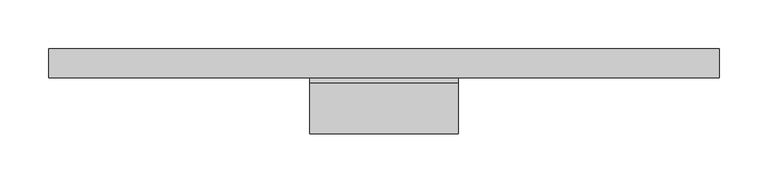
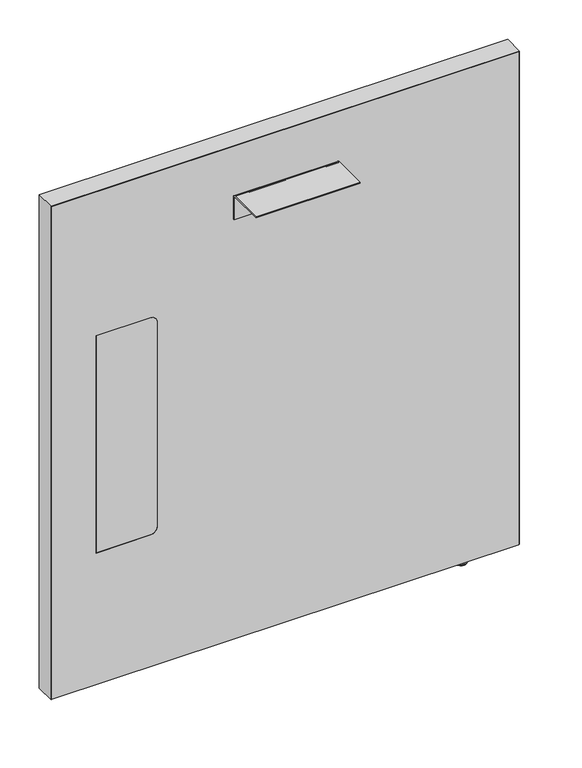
"""IFC4 building model written with IfcOpenShell, lengths in millimetres: furniture geometry, Steelcase - Answer Solution - Boundary Screen - Straight - Single Sided : 30H x 27W."""

from ifc_helpers import new_model, si_unit, point, frame, frame_2d, origin, place, context, project, spatial, polyline, circle_curve, ellipse_curve, trimmed, segment, composite_curve, outline, extrude, source, transform, mapped, element, save
from ifc_brep_helpers import plane_surface, cylinder_surface, revolved_surface, advanced_brep


def furniture_57e16f7c(model_context):
    return source(origin(), model_context, "Body", "SolidModel", [
        extrude(outline(composite_curve([segment(polyline([(-86.8398151, 696.4680019), (-86.8398151, 698.5), (-34.9450855, 698.5)]), True, "CONTINUOUS"), segment(trimmed(circle_curve(frame_2d((-34.9450855, 693.2447477)), 5.2552523), [point((-34.9450855, 698.5))], [point((-29.6898332, 693.2447477))], False, "CARTESIAN"), True, "CONTINUOUS"), segment(polyline([(-29.6898332, 693.2447477), (-29.6898332, 660.4), (-31.7218162, 660.4), (-31.7218162, 693.0058743)]), True, "CONTINUOUS"), segment(trimmed(circle_curve(frame_2d((-35.1839438, 693.0058743)), 3.4621276), [point((-31.7218162, 693.0058743))], [point((-35.1839438, 696.4680019))], True, "CARTESIAN"), True, "CONTINUOUS"), segment(polyline([(-35.1839438, 696.4680019), (-86.8398151, 696.4680019)]), True, "CONTINUOUS")], self_intersect=False)), frame((-379.7808593, 0.0, 0.0), z_axis=(1.0, 0.0, 0.0), x_axis=(0.0, 1.0, 0.0)), (0.0, 0.0, 1.0), 152.4000969),
        advanced_brep(
        [(-37.8713512, -23.7588726, 9.9059849), (-37.8713512, -5.9309607, 9.9059849), (-37.8713512, -14.8449166, 9.9059849), (-37.8713512, -23.7588726, 2.9673238), (-37.8713512, -5.9309607, 2.9673238), (-37.8713512, -22.7915354, 2.9673238), (-37.8713512, -6.8982978, 2.9673238), (-37.8713512, -22.7915354, 1.6569081), (-37.8713512, -6.8982978, 1.6569081), (-37.8713512, -21.1346274, 0.0), (-37.8713512, -8.5552059, 0.0), (-37.8713512, -14.8449166, 0.0)],
        [
            (0, 1, circle_curve(frame((-37.8713512, -14.8449166, 9.9059849), z_axis=(0.0, 0.0, 1.0), x_axis=(0.0, 1.0, 0.0)), 8.913956)),
            (1, 2),
            (2, 0),
            (1, 0, circle_curve(frame((-37.8713512, -14.8449166, 9.9059849), z_axis=(0.0, 0.0, 1.0), x_axis=(0.0, 1.0, 0.0)), 8.913956)),
            (3, 4, circle_curve(frame((-37.8713512, -14.8449166, 2.9673238), z_axis=(0.0, 0.0, 1.0), x_axis=(0.0, 1.0, 0.0)), 8.913956)),
            (4, 1),
            (0, 3),
            (4, 3, circle_curve(frame((-37.8713512, -14.8449166, 2.9673238), z_axis=(0.0, 0.0, 1.0), x_axis=(0.0, 1.0, 0.0)), 8.913956)),
            (5, 6, circle_curve(frame((-37.8713512, -14.8449166, 2.9673238), z_axis=(0.0, 0.0, 1.0), x_axis=(0.0, 1.0, 0.0)), 7.9466188)),
            (6, 4),
            (3, 5),
            (6, 5, circle_curve(frame((-37.8713512, -14.8449166, 2.9673238), z_axis=(0.0, 0.0, 1.0), x_axis=(0.0, 1.0, 0.0)), 7.9466188)),
            (7, 8, circle_curve(frame((-37.8713512, -14.8449166, 1.6569081), z_axis=(0.0, 0.0, 1.0), x_axis=(0.0, 1.0, 0.0)), 7.9466188)),
            (8, 6),
            (5, 7),
            (8, 7, circle_curve(frame((-37.8713512, -14.8449166, 1.6569081), z_axis=(0.0, 0.0, 1.0), x_axis=(0.0, 1.0, 0.0)), 7.9466188)),
            (9, 10, circle_curve(frame((-37.8713512, -14.8449166, 0.0), z_axis=(0.0, 0.0, 1.0), x_axis=(0.0, 1.0, 0.0)), 6.2897107)),
            (10, 8, circle_curve(frame((-37.8713512, -8.5552059, 1.6569081), z_axis=(1.0, 0.0, 0.0), x_axis=(0.0, 1.0, 0.0)), 1.6569081)),
            (7, 9, circle_curve(frame((-37.8713512, -21.1346274, 1.6569081), z_axis=(1.0, 0.0, 0.0), x_axis=(0.0, -1.0, 0.0)), 1.6569081)),
            (10, 9, circle_curve(frame((-37.8713512, -14.8449166, 0.0), z_axis=(0.0, 0.0, 1.0), x_axis=(0.0, 1.0, 0.0)), 6.2897107)),
            (11, 10),
            (9, 11),
        ],
        [
            plane_surface(frame((-37.8713512, -14.8449166, 9.9059849), z_axis=(0.0, 0.0, 1.0), x_axis=(0.0, 1.0, 0.0))),
            cylinder_surface(frame((-37.8713512, -14.8449166, 9.9059849), z_axis=(0.0, 0.0, -1.0), x_axis=(0.0, 1.0, 0.0)), 8.913956),
            plane_surface(frame((-37.8713512, -14.8449166, 2.9673238), z_axis=(0.0, 0.0, -1.0), x_axis=(0.0, 1.0, 0.0))),
            cylinder_surface(frame((-37.8713512, -14.8449166, 9.9059849), z_axis=(0.0, 0.0, -1.0), x_axis=(0.0, 1.0, 0.0)), 7.9466188),
            revolved_surface(trimmed(ellipse_curve(frame((-37.8713512, -8.5552059, 1.6569081), z_axis=(-1.0, 0.0, 0.0), x_axis=(0.0, 1.0, 0.0)), 1.6569081, 1.6569081), [point((-37.8713512, -6.8982978, 1.6569081))], [point((-37.8713512, -8.5552059, 0.0))], True, "CARTESIAN"), (-37.8713512, -14.8449166, 9.9059849), (0.0, 0.0, -1.0)),
            plane_surface(frame((-37.8713512, -14.8449166, 0.0), z_axis=(0.0, 0.0, -1.0), x_axis=(0.0, 1.0, 0.0))),
        ],
        [
            (0, [[1, 2, 3]]),
            (0, [[4, -3, -2]]),
            (1, [[5, 6, -1, 7]]),
            (1, [[8, -7, -4, -6]]),
            (2, [[9, 10, -5, 11]]),
            (2, [[12, -11, -8, -10]]),
            (3, [[13, 14, -9, 15]]),
            (3, [[16, -15, -12, -14]]),
            (4, [[17, 18, -13, 19]]),
            (4, [[20, -19, -16, -18]]),
            (5, [[21, -17, 22]]),
            (5, [[-22, -20, -21]]),
        ],
    ),
        advanced_brep(
        [(38.2780168, 0.0, 771.942118), (38.2780168, 0.0, 9.9059849), (-645.4902221, 0.0, 9.9059849), (-645.4902221, 0.0, 771.942118), (38.2780168, -29.6898332, 771.942118), (-645.4902221, -29.6898332, 771.942118), (-645.4902221, -29.6898332, 9.9059849), (38.2780168, -29.6898332, 9.9059849), (-501.1463873, -29.6898332, 549.6162029), (-490.9863873, -29.6898332, 539.4562029), (-490.9863873, -29.6898332, 223.9362137), (-501.1463873, -29.6898332, 213.7762137), (-580.800285, -29.6898332, 213.7762137), (-580.800285, -29.6898332, 549.6162029), (-580.800285, -29.0550397, 549.6162029), (-501.1463873, -29.0550397, 549.6162029), (-580.800285, -29.0550397, 213.7762137), (-501.1463873, -29.0550397, 213.7762137), (-490.9863873, -29.0550397, 223.9362137), (-490.9863873, -29.0550397, 539.4562029)],
        [
            (0, 1),
            (1, 2),
            (2, 3),
            (3, 0),
            (4, 5),
            (5, 6),
            (6, 7),
            (7, 4),
            (8, 9, circle_curve(frame((-501.1463873, -29.6898332, 539.4562029), z_axis=(0.0, 1.0, 0.0), x_axis=(0.0, 0.0, 1.0)), 10.16)),
            (9, 10),
            (10, 11, circle_curve(frame((-501.1463873, -29.6898332, 223.9362137), z_axis=(0.0, 1.0, 0.0), x_axis=(0.0, 0.0, 1.0)), 10.16)),
            (11, 12),
            (12, 13),
            (13, 8),
            (0, 4),
            (7, 1),
            (6, 2),
            (5, 3),
            (13, 14),
            (14, 15),
            (15, 8),
            (12, 16),
            (16, 14),
            (11, 17),
            (17, 16),
            (10, 18),
            (18, 17, circle_curve(frame((-501.1463873, -29.0550397, 223.9362137), z_axis=(0.0, 1.0, 0.0), x_axis=(0.0, 0.0, 1.0)), 10.16)),
            (9, 19),
            (19, 18),
            (15, 19, circle_curve(frame((-501.1463873, -29.0550397, 539.4562029), z_axis=(0.0, 1.0, 0.0), x_axis=(0.0, 0.0, 1.0)), 10.16)),
        ],
        [
            plane_surface(frame((38.2780168, 0.0, 771.942118), z_axis=(0.0, 1.0, 0.0), x_axis=(0.0, 0.0, -1.0))),
            plane_surface(frame((38.2780168, -29.6898332, 771.942118), z_axis=(0.0, -1.0, 0.0), x_axis=(0.0, 0.0, 1.0))),
            plane_surface(frame((38.2780168, 0.0, 771.942118), z_axis=(1.0, 0.0, 0.0), x_axis=(0.0, -1.0, 0.0))),
            plane_surface(frame((38.2780168, 0.0, 9.9059849), z_axis=(0.0, 0.0, -1.0), x_axis=(0.0, -1.0, 0.0))),
            plane_surface(frame((-645.4902221, 0.0, 9.9059849), z_axis=(-1.0, 0.0, 0.0), x_axis=(0.0, -1.0, 0.0))),
            plane_surface(frame((-645.4902221, 0.0, 771.942118), z_axis=(0.0, 0.0, 1.0), x_axis=(0.0, -1.0, 0.0))),
            plane_surface(frame((-501.1463873, 0.0, 549.6162029), z_axis=(0.0, 0.0, -1.0), x_axis=(0.0, -1.0, 0.0))),
            plane_surface(frame((-580.800285, 0.0, 549.6162029), z_axis=(1.0, 0.0, 0.0), x_axis=(0.0, -1.0, 0.0))),
            plane_surface(frame((-580.800285, 0.0, 213.7762137), z_axis=(0.0, 0.0, 1.0), x_axis=(0.0, -1.0, 0.0))),
            revolved_surface(polyline([(-501.1463873, -29.6898332, 234.0962137), (-501.1463873, -29.0550397, 234.0962137)]), (-501.1463873, -29.6898332, 223.9362137), (0.0, -1.0, 0.0)),
            plane_surface(frame((-490.9863873, 0.0, 223.9362137), z_axis=(-1.0, 0.0, 0.0), x_axis=(0.0, -1.0, 0.0))),
            revolved_surface(polyline([(-501.1463873, -29.6898332, 549.6162029), (-501.1463873, -29.0550397, 549.6162029)]), (-501.1463873, -29.6898332, 539.4562029), (0.0, -1.0, 0.0)),
            plane_surface(frame((-490.9863873, -29.0550397, 629.172953), z_axis=(0.0, -1.0, 0.0), x_axis=(0.0, 0.0, 1.0))),
        ],
        [
            (0, [[1, 2, 3, 4]]),
            (1, [[5, 6, 7, 8], [9, 10, 11, 12, 13, 14]]),
            (2, [[-1, 15, -8, 16]]),
            (3, [[-2, -16, -7, 17]]),
            (4, [[-3, -17, -6, 18]]),
            (5, [[-4, -18, -5, -15]]),
            (6, [[-14, 19, 20, 21]]),
            (7, [[-13, 22, 23, -19]]),
            (8, [[-12, 24, 25, -22]]),
            (9, [[-11, 26, 27, -24]]),
            (10, [[-10, 28, 29, -26]]),
            (11, [[-9, -21, 30, -28]]),
            (12, [[-20, -23, -25, -27, -29, -30]]),
        ],
    ),
        extrude(outline(composite_curve([segment(polyline([(549.6162029, -501.1463873), (549.6162029, -580.800285), (213.7762137, -580.800285), (213.7762137, -501.1463873)]), True, "CONTINUOUS"), segment(trimmed(circle_curve(frame_2d((223.9362137, -501.1463873)), 10.16), [point((213.7762137, -501.1463873))], [point((223.9362137, -490.9863873))], False, "CARTESIAN"), True, "CONTINUOUS"), segment(polyline([(223.9362137, -490.9863873), (539.4562029, -490.9863873)]), True, "CONTINUOUS"), segment(trimmed(circle_curve(frame_2d((539.4562029, -501.1463873)), 10.16), [point((539.4562029, -490.9863873))], [point((549.6162029, -501.1463873))], False, "CARTESIAN"), True, "CONTINUOUS")], self_intersect=False)), frame((0.0, -29.6898332, 0.0), z_axis=(0.0, 1.0, 0.0), x_axis=(0.0, 0.0, 1.0)), (0.0, 0.0, 1.0), 0.6347935),
        extrude(outline(polyline([(772.922, 39.3191891), (772.922, -646.4808109), (9.9059849, -646.4808109), (9.9059849, -645.4902221), (771.942118, -645.4902221), (771.942118, 38.2780168), (9.9059849, 38.2780168), (9.9059849, 39.3191891), (772.922, 39.3191891)])), frame((0.0, -29.6898332, 0.0), z_axis=(0.0, 1.0, 0.0), x_axis=(0.0, 0.0, 1.0)), (0.0, 0.0, 1.0), 29.6898332),
    ])


if __name__ == "__main__":
    model = new_model("IFC4")
    model_context = context("Model", 3, world=origin())
    ifc_project = project(units=[si_unit("LENGTHUNIT", "METRE", prefix="MILLI")], contexts=[model_context])
    site = spatial("IfcSite", under=ifc_project)
    building = spatial("IfcBuilding", under=site)
    placement = place(None, origin())
    furniture_shape = furniture_57e16f7c(model_context)
    element("IfcFurniture", 1, ObjectType="Steelcase - Answer Solution - Boundary Screen - Straight - Single Sided : 30H x 27W", at=placement, inside=building, context=model_context, shape_type="MappedRepresentation", body=[
        mapped(furniture_shape, transform((0.0, 0.0, 0.0), x_axis=(1.0, 0.0, 0.0), y_axis=(0.0, 1.0, 0.0), z_axis=(0.0, 0.0, 1.0))),
    ])
    save(model, "model.ifc")
